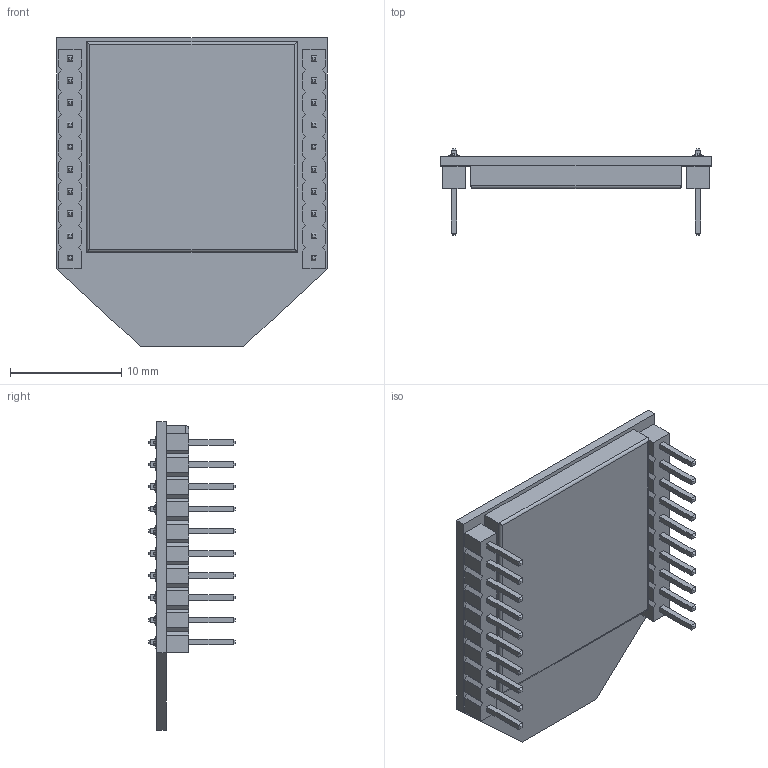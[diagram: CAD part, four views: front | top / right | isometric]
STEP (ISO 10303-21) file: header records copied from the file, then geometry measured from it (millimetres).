
FILE_DESCRIPTION (( 'STEP AP214' ), '1' );
FILE_NAME ('XBee PCB Antenna.STEP', '2016-04-07T15:22:40', ( '' ), ( '' ), 'SwSTEP 2.0', 'SolidWorks 2015', '' );
FILE_SCHEMA (( 'AUTOMOTIVE_DESIGN' ));
Length unit declared in the file: millimetre
Products named in the file (1): XBee PCB Antenna
Bounding box: 24.38 x 7.75 x 27.77 mm (x, y, z)
Volume: 1444.1 mm3; surface area: 1855.7 mm2
Topology: 1 solids, 1 shells, 1323 faces, 3431 edges, 2126 vertices
Faces by surface type: plane 833, bspline 446, torus 40, cylinder 4
Entity records: 62636 total; most frequent: CARTESIAN_POINT 19891, ORIENTED_EDGE 6702, DIRECTION 4331, EDGE_CURVE 3351, VERTEX_POINT 2126, LINE 2095, VECTOR 2095, EDGE_LOOP 1419
